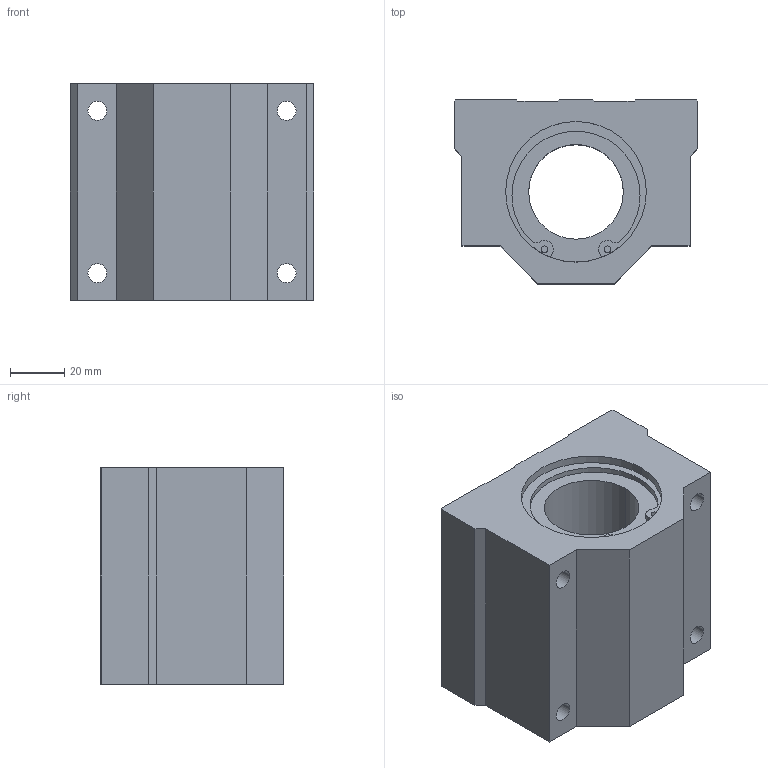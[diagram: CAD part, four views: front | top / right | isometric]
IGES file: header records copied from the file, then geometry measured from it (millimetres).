
Start section: 3D InterOp IGES (Version 21 0 1), Spatial Corp. Copyright (c) 1999-2007.
Global section: file name: LC-35VAUU.igs; native system: Spatial Corp.; preprocessor: 3D InterOp GENERIC/IGES 3.0; author: Noname; organization: Noname; date: 20220519.103514; units: millimetre
Bounding box: 90 x 68 x 80 mm (x, y, z)
Surface area: 46101.8 mm2 (no closed solid volume)
Topology: 0 solids, 0 shells, 86 faces, 452 edges, 452 vertices
Faces by surface type: revolution 50, extrusion 36
